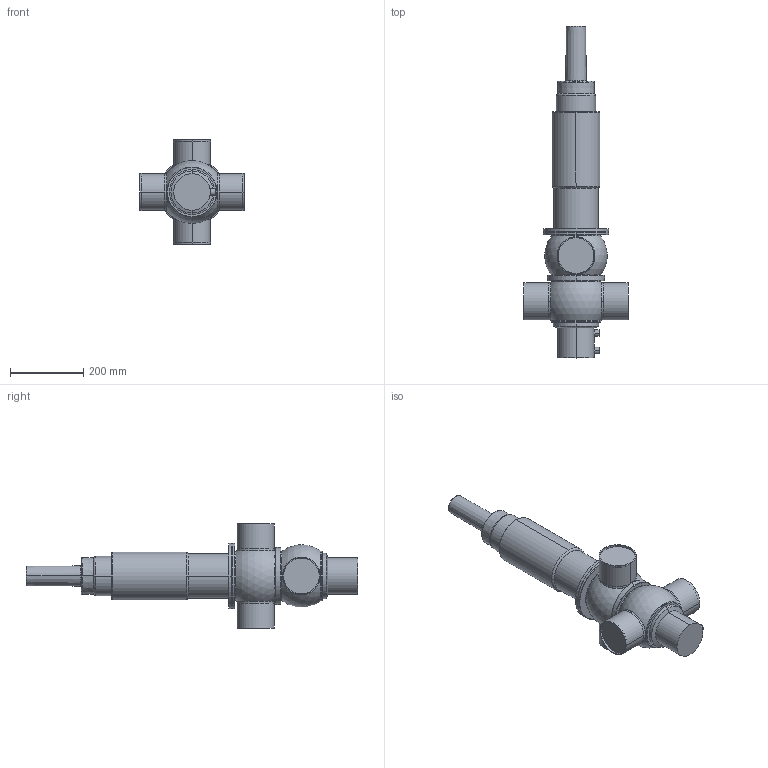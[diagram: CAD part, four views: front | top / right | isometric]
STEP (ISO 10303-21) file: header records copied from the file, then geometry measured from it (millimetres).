
FILE_DESCRIPTION(('Creo Elements/Direct Modeling STEP Export'),'2;1');
FILE_NAME('D44SL-4T_prox..stp','2019-09-04T 9:42:42',(''),(''),'PTC Creo Elements/Direct Modeling STEP processor for AP214 (Solid Model)','PTC Creo Elements/Direct Modeling 19.0B 21-Mar-2015 (C) Parametric Technology GmbH','');
FILE_SCHEMA(('AUTOMOTIVE_DESIGN { 1 0 10303 214 1 1 1 1 }'));
Length unit declared in the file: millimetre
Products named in the file (5): D4_Prox._holder.; actuator_D4SL-125_yoke; drain_pipe_92; housing_D44_4T; D44SL-4T_prox.
Assembly tree (4 placements, depth 2):
  D44SL-4T_prox.
    housing_D44_4T
    drain_pipe_92
    actuator_D4SL-125_yoke
    D4_Prox._holder.
Bounding box: 285 x 908.5 x 285 mm (x, y, z)
Volume: 13174596.3 mm3; surface area: 607628.5 mm2
Topology: 4 solids, 4 shells, 137 faces, 291 edges, 176 vertices
Faces by surface type: cylinder 52, torus 40, plane 28, cone 12, sphere 5
Entity records: 4241 total; most frequent: CARTESIAN_POINT 1383, DIRECTION 586, ORIENTED_EDGE 578, EDGE_CURVE 289, AXIS2_PLACEMENT_3D 261, VERTEX_POINT 176, EDGE_LOOP 153, FACE_OUTER_BOUND 137
